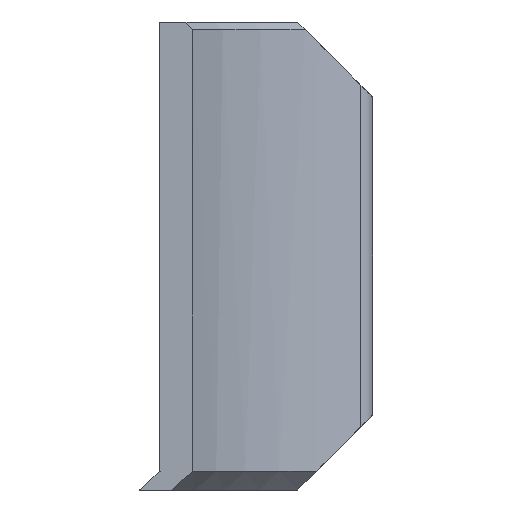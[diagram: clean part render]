
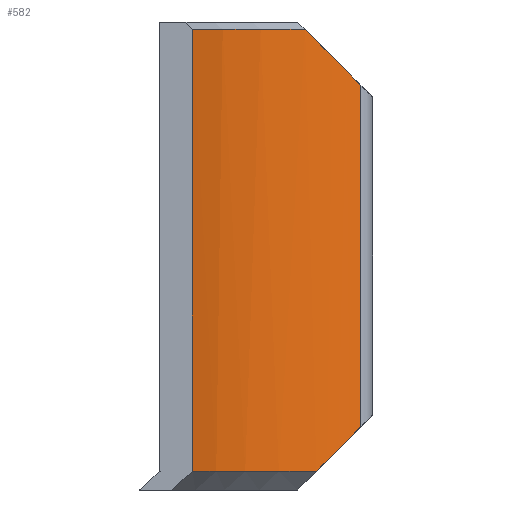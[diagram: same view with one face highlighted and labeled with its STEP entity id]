
A CAD part, front view. The second image highlights one B-rep face of the part: STEP entity #582.
In plain terms, the highlighted cylindrical face has radius 17.77 mm (diameter 35.539 mm), a partial arc.
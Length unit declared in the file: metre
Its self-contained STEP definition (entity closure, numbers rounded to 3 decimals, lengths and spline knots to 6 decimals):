
#26=ELLIPSE('',#641,0.02513,0.01777);
#27=ELLIPSE('',#642,0.02513,0.01777);
#35=CYLINDRICAL_SURFACE('',#640,0.01777);
#46=CIRCLE('',#643,0.01777);
#47=CIRCLE('',#644,0.01777);
#57=LINE('',#880,#103);
#83=LINE('',#998,#129);
#103=VECTOR('',#679,1.);
#129=VECTOR('',#759,1.);
#238=ORIENTED_EDGE('',*,*,#374,.F.);
#239=ORIENTED_EDGE('',*,*,#375,.F.);
#240=ORIENTED_EDGE('',*,*,#376,.F.);
#241=ORIENTED_EDGE('',*,*,#377,.F.);
#242=ORIENTED_EDGE('',*,*,#329,.T.);
#243=ORIENTED_EDGE('',*,*,#378,.F.);
#329=EDGE_CURVE('',#416,#415,#57,.T.);
#374=EDGE_CURVE('',#445,#446,#26,.F.);
#375=EDGE_CURVE('',#447,#445,#83,.T.);
#376=EDGE_CURVE('',#448,#447,#27,.T.);
#377=EDGE_CURVE('',#416,#448,#46,.T.);
#378=EDGE_CURVE('',#446,#415,#47,.F.);
#415=VERTEX_POINT('',#879);
#416=VERTEX_POINT('',#881);
#445=VERTEX_POINT('',#996);
#446=VERTEX_POINT('',#997);
#447=VERTEX_POINT('',#999);
#448=VERTEX_POINT('',#1001);
#496=EDGE_LOOP('',(#238,#239,#240,#241,#242,#243));
#531=FACE_BOUND('',#496,.T.);
#582=ADVANCED_FACE('',(#531),#35,.F.);
#640=AXIS2_PLACEMENT_3D('',#994,#755,#756);
#641=AXIS2_PLACEMENT_3D('',#995,#757,#758);
#642=AXIS2_PLACEMENT_3D('',#1000,#760,#761);
#643=AXIS2_PLACEMENT_3D('',#1002,#762,#763);
#644=AXIS2_PLACEMENT_3D('',#1003,#764,#765);
#679=DIRECTION('',(0.,0.,-1.));
#755=DIRECTION('',(0.,0.,-1.));
#756=DIRECTION('',(-1.,0.,0.));
#757=DIRECTION('',(0.707,0.,-0.707));
#758=DIRECTION('',(-0.707,0.,-0.707));
#759=DIRECTION('',(0.,0.,-1.));
#760=DIRECTION('',(-0.707,0.,-0.707));
#761=DIRECTION('',(0.707,0.,-0.707));
#762=DIRECTION('',(0.,0.,-1.));
#763=DIRECTION('',(1.,0.,0.));
#764=DIRECTION('',(0.,0.,-1.));
#765=DIRECTION('',(1.,0.,0.));
#879=CARTESIAN_POINT('',(0.069471,-0.026564,0.001));
#880=CARTESIAN_POINT('',(0.069471,-0.026564,0.025));
#881=CARTESIAN_POINT('',(0.069471,-0.026564,0.0246));
#994=CARTESIAN_POINT('',(0.085239,-0.034756,0.025));
#995=CARTESIAN_POINT('',(0.085239,-0.034756,0.010144));
#996=CARTESIAN_POINT('',(0.078476,-0.018324,0.003381));
#997=CARTESIAN_POINT('',(0.076096,-0.019519,0.001));
#998=CARTESIAN_POINT('',(0.078476,-0.018324,0.025));
#999=CARTESIAN_POINT('',(0.078476,-0.018324,0.021619));
#1000=CARTESIAN_POINT('',(0.085239,-0.034756,0.014856));
#1001=CARTESIAN_POINT('',(0.075496,-0.019896,0.0246));
#1002=CARTESIAN_POINT('',(0.085239,-0.034756,0.0246));
#1003=CARTESIAN_POINT('',(0.085239,-0.034756,0.001));
